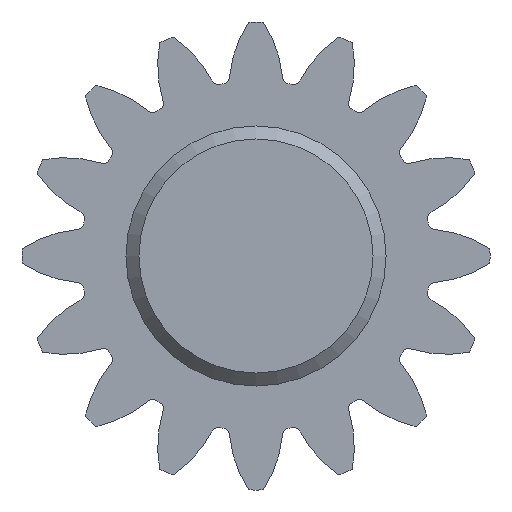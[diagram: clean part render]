
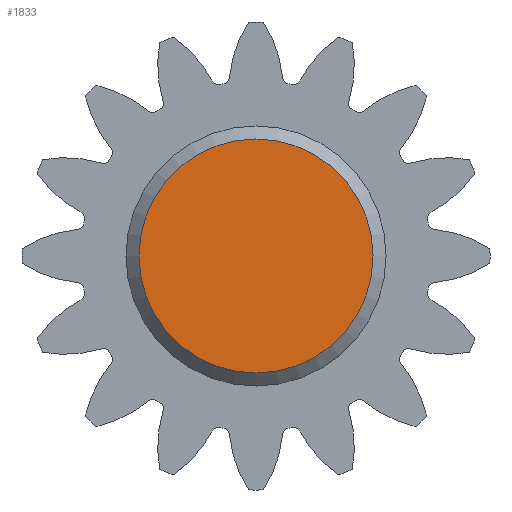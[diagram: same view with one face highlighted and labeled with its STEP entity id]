
A CAD part, left-side view. The second image highlights one B-rep face of the part: STEP entity #1833.
In plain terms, the highlighted planar face has unit normal (-1, 0, 0).
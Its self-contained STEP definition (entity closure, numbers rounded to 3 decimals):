
#17=PLANE('',#1964);
#121=FACE_OUTER_BOUND('',#225,.T.);
#225=EDGE_LOOP('',(#1239));
#531=CIRCLE('',#1961,9.);
#731=VERTEX_POINT('',#2978);
#932=EDGE_CURVE('',#731,#731,#531,.T.);
#1239=ORIENTED_EDGE('',*,*,#932,.F.);
#1833=ADVANCED_FACE('',(#121),#17,.F.);
#1961=AXIS2_PLACEMENT_3D('',#2980,#2271,#2272);
#1964=AXIS2_PLACEMENT_3D('',#2985,#2278,#2279);
#2271=DIRECTION('center_axis',(1.,0.,0.));
#2272=DIRECTION('ref_axis',(0.,0.,1.));
#2278=DIRECTION('center_axis',(1.,0.,0.));
#2279=DIRECTION('ref_axis',(0.,0.,-1.));
#2978=CARTESIAN_POINT('',(-22.,0.,-9.));
#2980=CARTESIAN_POINT('Origin',(-22.,0.,0.));
#2985=CARTESIAN_POINT('Origin',(-22.,0.,0.));
